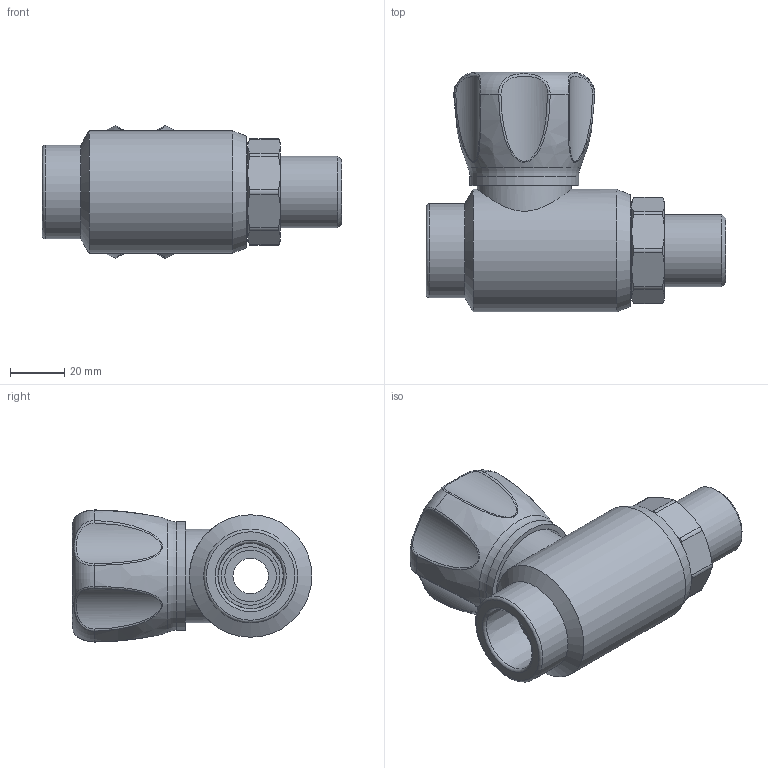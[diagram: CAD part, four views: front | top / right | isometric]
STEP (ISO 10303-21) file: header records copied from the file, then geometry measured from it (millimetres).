
FILE_DESCRIPTION(/* description */ (''),/* implementation_level */ '2;1');
FILE_NAME(/* name */ 'E:\Артём\00000\Работа удаленка\VTp.717.0.02505.stp',/* time_stamp */ '2020-04-01T11:11:56+03:00',/* author */ ('BeN_GaN'),/* organization */ (''),/* preprocessor_version */ 'ST-DEVELOPER v18',/* originating_system */ 'Autodesk Inventor 2020',/* authorisation */ '');
FILE_SCHEMA (('AUTOMOTIVE_DESIGN { 1 0 10303 214 3 1 1 }'));
Length unit declared in the file: millimetre
Products named in the file (1): VTp.717.0.02505
Bounding box: 110 x 88.1 x 48.54 mm (x, y, z)
Volume: 155637.9 mm3; surface area: 43114 mm2
Topology: 1 solids, 5 shells, 323 faces, 872 edges, 591 vertices
Faces by surface type: plane 183, cylinder 58, cone 38, bspline 30, torus 12, sphere 2
Full cylindrical faces by diameter (mm): 6.886 x1, 8.7 x2, 11 x2, 11.1 x2, 13 x1, 18.913 x2, 19 x3, 20 x1, 21.5 x1, 22 x2, 24 x1, 24.2 x2, 26.4 x1, 27 x1, 28 x1, 30.4 x1, 33.3 x1, 34 x1, 34.5 x2, 40 x1, 45 x1
Entity records: 11882 total; most frequent: CARTESIAN_POINT 3831, ORIENTED_EDGE 1734, DIRECTION 1579, EDGE_CURVE 867, VERTEX_POINT 591, AXIS2_PLACEMENT_3D 553, LINE 473, VECTOR 473
